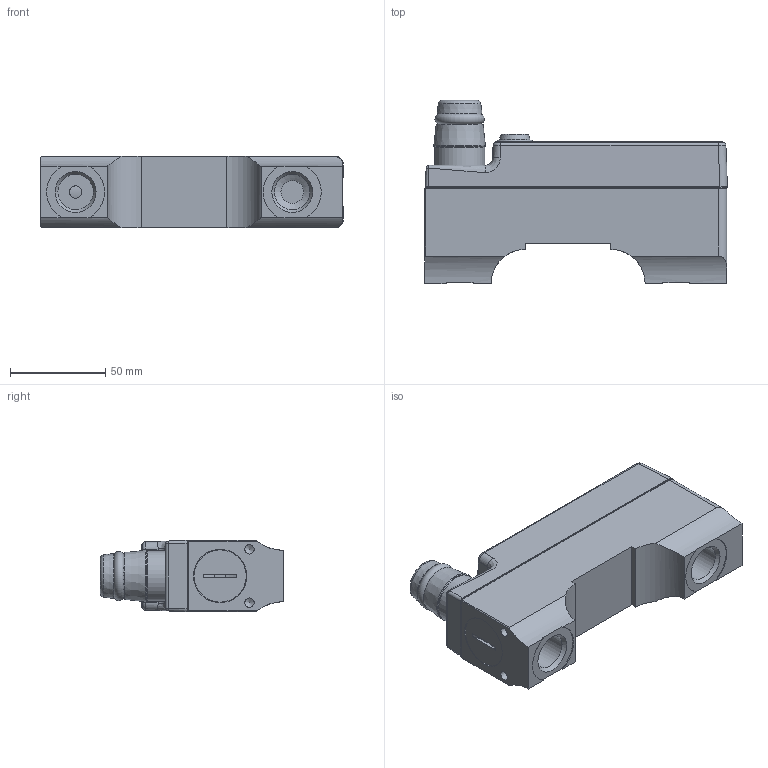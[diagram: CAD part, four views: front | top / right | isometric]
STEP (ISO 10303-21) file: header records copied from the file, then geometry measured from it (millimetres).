
FILE_DESCRIPTION(/* description */ (''),/* implementation_level */ '2;1');
FILE_NAME(/* name */ 'C:\Users\M-Huiskes\Desktop\MV-3x8.stp',/* time_stamp */ '2017-01-18T10:06:18+01:00',/* author */ ('M-Huiskes'),/* organization */ (''),/* preprocessor_version */ 'ST-DEVELOPER v16.5',/* originating_system */ 'Autodesk Inventor 2017',/* authorisation */ '');
FILE_SCHEMA (('AUTOMOTIVE_DESIGN { 1 0 10303 214 3 1 1 }'));
Length unit declared in the file: millimetre
Products named in the file (1): Part6
Bounding box: 159.29 x 96.4 x 37.5 mm (x, y, z)
Volume: 362300.4 mm3; surface area: 43840.9 mm2
Topology: 1 solids, 3 shells, 635 faces, 1666 edges, 1099 vertices
Faces by surface type: plane 407, bspline 153, cylinder 53, cone 17, torus 4, sphere 1
Full cylindrical faces by diameter (mm): 4.917 x2, 6.5 x1, 12 x1, 16 x1, 18.631 x2, 21.7 x2, 26.5 x1, 27.5 x1, 28 x1
Entity records: 20383 total; most frequent: CARTESIAN_POINT 5468, ORIENTED_EDGE 3264, DIRECTION 2455, EDGE_CURVE 1632, LINE 1191, VECTOR 1191, VERTEX_POINT 1093, EDGE_LOOP 725
